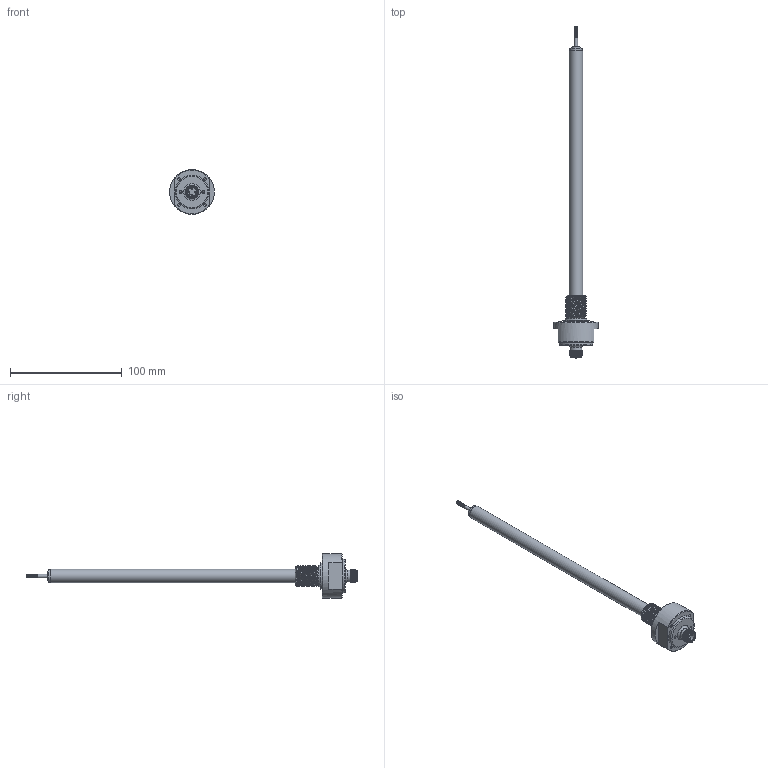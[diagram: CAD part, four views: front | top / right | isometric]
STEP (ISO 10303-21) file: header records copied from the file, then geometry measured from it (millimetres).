
FILE_DESCRIPTION( ( 'Unknown' ), '1' );
FILE_NAME( 'N:/Engineering/CAD/LVDT/HYD/Kunden-3D-Modell/SM100-HYD-18-S-M12.stp', 'Unknown', ( 'Unknown' ), ( 'Unknown' ), 'PSStep 17.0.49', 'Unknown', ' ' );
FILE_SCHEMA( ( 'AUTOMOTIVE_DESIGN { 1 0 10303 214 1 1 1 1 }' ) );
Length unit declared in the file: millimetre
Products named in the file (11): Einbaustecker_Waycon; Einbausteckverbinder_Waycon; Kontaktstift_M12; Assem1; Endkappe; Innenrohr_SM5-HYD; Kernverlängerung_SM5-HYD; SM-HYD-Flansch_M18_vereinfacht; O-Ring_15,4x2,1; Endkappe_HYD-KA_vereinfacht; Aussenrohr_SM100-HYD_vereinfacht
Assembly tree (13 placements, depth 3):
  Assem1
    Endkappe
    Innenrohr_SM5-HYD
    Kernverlängerung_SM5-HYD
    SM-HYD-Flansch_M18_vereinfacht
    O-Ring_15,4x2,1
    Endkappe_HYD-KA_vereinfacht
    Aussenrohr_SM100-HYD_vereinfacht
    Einbaustecker_Waycon
      Einbausteckverbinder_Waycon
      Kontaktstift_M12  x4
Bounding box: 40 x 297.2 x 40 mm (x, y, z)
Volume: 55937.7 mm3; surface area: 24672.1 mm2
Topology: 12 solids, 12 shells, 261 faces, 583 edges, 383 vertices
Faces by surface type: plane 122, cylinder 68, cone 37, extrusion 18, bspline 8, torus 8
Full cylindrical faces by diameter (mm): 0.5 x4, 1 x12, 1.2 x8, 1.8 x4, 2.013 x1, 2.4 x1, 2.5 x4, 2.6 x2, 3 x1, 4 x1, 6 x2, 8 x2, 8.2 x1, 8.3 x1, 9 x1, 9.35 x1, 9.55 x1, 10 x1, 10.05 x1, 10.5 x1, 10.6 x2, 11 x2, 12 x2, 15.8 x1, 22.5 x1, 24 x2, 30 x1, 40 x1
Entity records: 14294 total; most frequent: CARTESIAN_POINT 7955, DIRECTION 870, ORIENTED_EDGE 796, EDGE_CURVE 398, EDGE_LOOP 331, AXIS2_PLACEMENT_3D 327, VERTEX_POINT 309, FACE_OUTER_BOUND 264
